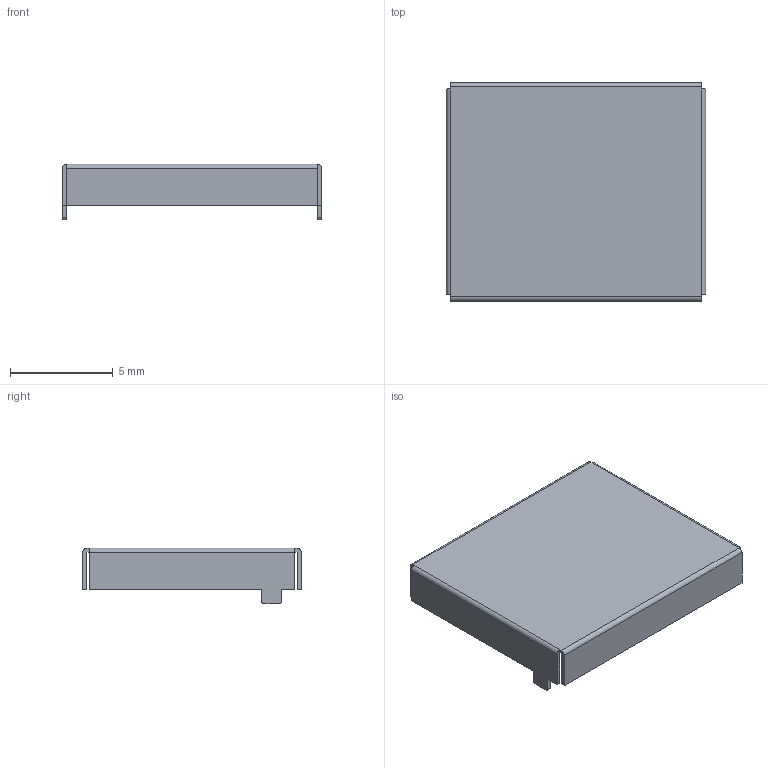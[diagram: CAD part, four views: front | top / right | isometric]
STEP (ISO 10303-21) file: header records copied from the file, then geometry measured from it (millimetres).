
FILE_DESCRIPTION(/* description */ ('STEP AP242 Edition 2','CAx-IF Rec.Pracs.---Representation and Presentation of Product Manufacturing Information (PMI)---4.0---2014-10-13','CAx-IF Rec.Pracs.---3D Tessellated Geometry---0.4---2014-09-14','2;1','CAx-IF Rec.Pracs.---User Defined Attributes---1.5---2016-08-15'),/* implementation_level */ '2;1');
FILE_NAME(/* name */ 'Assembly 1 - Shield',/* time_stamp */ '2026-09-16T18:36:11Z',/* author */ (''),/* organization */ (''),/* preprocessor_version */ 'ST-DEVELOPER v20',/* originating_system */ 'ONSHAPE BY PTC INC, 1.220',/* authorisation */ ' ');
FILE_SCHEMA (('AP242_MANAGED_MODEL_BASED_3D_ENGINEERING_MIM_LF { 1 0 10303 442 3 1 4 }'));
Length unit declared in the file: centimetre
Products named in the file (1): Shield
Bounding box: 12.6 x 10.6 x 2.7 mm (x, y, z)
Volume: 42.5 mm3; surface area: 437.9 mm2
Topology: 1 solids, 1 shells, 38 faces, 100 edges, 64 vertices
Faces by surface type: plane 30, cylinder 8
Entity records: 1178 total; most frequent: CARTESIAN_POINT 203, ORIENTED_EDGE 200, DIRECTION 194, EDGE_CURVE 100, LINE 84, VECTOR 84, VERTEX_POINT 64, AXIS2_PLACEMENT_3D 55
